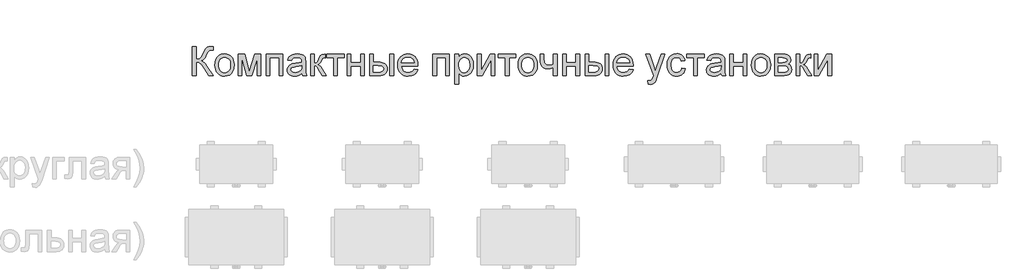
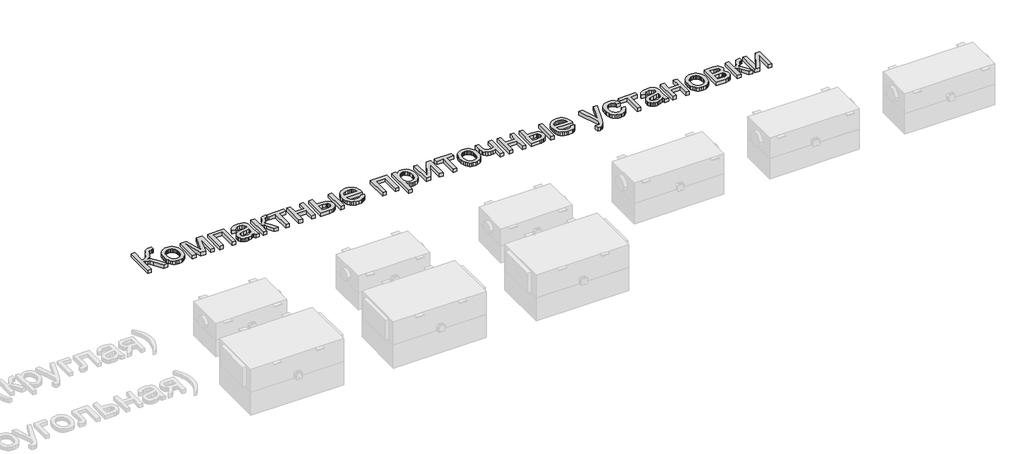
# One storey, part 28 of 28: 1 proxy.
"""IFC4 building model written with IfcOpenShell, lengths in millimetres."""

from ifc_helpers import new_model, si_unit, origin, origin_with_axes, place, context, project, spatial, polyline, outline, extrude, element, save

model = new_model("IFC4")

# Units and contexts
model_context = context("Model", 3, world=origin())
ifc_project = project(units=[si_unit("LENGTHUNIT", "METRE", prefix="MILLI")], contexts=[model_context])

# Site, building, storey
site = spatial("IfcSite", under=ifc_project)
building = spatial("IfcBuilding", under=site)
storey = spatial("IfcBuildingStorey", under=building, Name="Уровень 1", Elevation=0.0)

# Proxy
placement = place(None, origin())
element("IfcBuildingElementProxy", 1, Name="400 мм Arial", ObjectType="400 мм Arial", at=placement, inside=storey, context=model_context, shape_type="SweptSolid", body=[
    extrude(outline(polyline([(-21278.8987872, 24087.9376511), (-21228.6706322, 24087.9376511), (-21228.6706322, 23912.1391083), (-21194.6660731, 23915.462309), (-21172.5073142, 23925.4319111), (-21154.5914611, 23948.8905196), (-21133.315619, 23992.6807398), (-21105.601842, 24048.8440577), (-21092.2354629, 24064.0621096), (-21074.2092451, 24076.6559365), (-21052.8107757, 24085.1172224), (-21029.3276417, 24087.9376511), (-20996.3654149, 24087.3490399), (-20996.3654149, 24037.1208848), (-21007.4509257, 24037.4151904), (-21018.5364365, 24037.709496), (-21041.5413239, 24034.6928636), (-21057.7771827, 24025.6429665), (-21071.7566985, 24006.6357301), (-21087.6001497, 23973.9432835), (-21107.0365818, 23933.2310093), (-21123.1620759, 23910.9618859), (-21139.0668409, 23899.238713), (-21157.8410854, 23890.1642904), (-21138.3862592, 23881.8869456), (-21119.0663231, 23867.4537086), (-21099.881277, 23846.8645796), (-21080.831121, 23820.1195586), (-20996.3654149, 23686.1124105), (-21054.637923, 23686.1124105), (-21126.056081, 23799.3219631), (-21153.6349679, 23835.631916), (-21176.333287, 23858.428337), (-21199.5466409, 23870.4580782), (-21228.6706322, 23874.467992), (-21228.6706322, 23686.1124105), (-21278.8987872, 23686.1124105), (-21278.8987872, 24087.9376511)])), origin_with_axes(), (0.0, 0.0, 1.0), 50.0),
    extrude(outline(polyline([(-20971.2513374, 23833.657616), (-20968.535142, 23871.8744239), (-20960.3865558, 23904.8059939), (-20946.8055788, 23932.4523258), (-20927.792211, 23954.8134197), (-20908.6500846, 23969.1056352), (-20887.5213953, 23979.3143606), (-20864.4061433, 23985.4395958), (-20839.3043285, 23987.4813409), (-20811.5936172, 23984.9950718), (-20786.5377876, 23977.5362643), (-20764.1368398, 23965.1049185), (-20744.3907737, 23947.7010345), (-20728.2744766, 23925.9132233), (-20716.7628359, 23900.3300962), (-20709.8558514, 23870.9516532), (-20707.5535233, 23837.7778943), (-20711.6247507, 23787.0347045), (-20723.8384329, 23748.407095), (-20743.8389507, 23719.4793074), (-20771.2706848, 23697.8355834), (-20803.8527669, 23684.3343141), (-20839.3043285, 23679.8338911), (-20867.4197099, 23682.3109632), (-20892.7085314, 23689.7421795), (-20915.1707929, 23702.12754), (-20934.8064944, 23719.4670447), (-20950.7511132, 23741.466388), (-20962.1401267, 23767.8312643), (-20968.9735347, 23798.5616736), (-20971.2513374, 23833.657616)]), holes=[polyline([(-20921.0231823, 23833.7557179), (-20919.5700484, 23809.3927327), (-20915.2106468, 23788.297766), (-20907.9449774, 23770.4708176), (-20897.7730402, 23755.9118877), (-20885.3999425, 23744.602582), (-20871.5307912, 23736.5245065), (-20856.1655866, 23731.6776612), (-20839.3043285, 23730.0620461), (-20822.5289095, 23731.6868583), (-20807.2250185, 23736.5612947), (-20793.3926555, 23744.6853555), (-20781.0318204, 23756.0590405), (-20770.8598833, 23770.7620575), (-20763.5942139, 23788.8741144), (-20759.2348122, 23810.3952112), (-20757.7816783, 23835.3253477), (-20759.2440093, 23858.9157806), (-20763.6310021, 23879.4589244), (-20770.9426567, 23896.9547789), (-20781.1789732, 23911.4033443), (-20793.5857935, 23922.71265), (-20807.4089595, 23930.7907254), (-20822.6484711, 23935.6375707), (-20839.3043285, 23937.2531858), (-20856.1655866, 23935.6437021), (-20871.5307912, 23930.8152509), (-20885.3999425, 23922.7678323), (-20897.7730402, 23911.5014462), (-20907.9449774, 23896.9854358), (-20915.2106468, 23879.1891443), (-20919.5700484, 23858.1125716), (-20921.0231823, 23833.7557179)])]), origin_with_axes(), (0.0, 0.0, 1.0), 50.0),
    extrude(outline(polyline([(-20651.0468488, 23981.2028215), (-20564.6191054, 23981.2028215), (-20498.0079388, 23744.9735297), (-20426.1973733, 23981.2028215), (-20343.399399, 23981.2028215), (-20343.399399, 23686.1124105), (-20393.627554, 23686.1124105), (-20393.627554, 23923.7151284), (-20465.830527, 23686.1124105), (-20531.7549805, 23686.1124105), (-20600.8186937, 23935.0949448), (-20600.8186937, 23686.1124105), (-20651.0468488, 23686.1124105), (-20651.0468488, 23981.2028215)])), origin_with_axes(), (0.0, 0.0, 1.0), 50.0),
    extrude(outline(polyline([(-20268.0571664, 23981.2028215), (-20042.0304685, 23981.2028215), (-20042.0304685, 23686.1124105), (-20092.2586236, 23686.1124105), (-20092.2586236, 23930.9746664), (-20217.8290113, 23930.9746664), (-20217.8290113, 23686.1124105), (-20268.0571664, 23686.1124105), (-20268.0571664, 23981.2028215)])), origin_with_axes(), (0.0, 0.0, 1.0), 50.0),
    extrude(outline(polyline([(-19778.3326544, 23723.7835268), (-19802.3308232, 23703.2066605), (-19827.0402305, 23689.7421795), (-19853.0249621, 23682.3109632), (-19880.8491037, 23679.8338911), (-19903.2132633, 23681.3238132), (-19922.8244393, 23685.7935794), (-19939.6826318, 23693.2431898), (-19953.7878406, 23703.6726444), (-19964.925468, 23716.4197555), (-19972.8809162, 23730.8223356), (-19977.654185, 23746.8803847), (-19979.2452747, 23764.5939028), (-19976.841779, 23785.4160237), (-19969.6312919, 23804.3251582), (-19958.5089929, 23820.511966), (-19944.3700615, 23833.1671067), (-19927.7540581, 23842.7320385), (-19909.2005428, 23849.64822), (-19865.7414164, 23857.2020637), (-19814.3850899, 23865.1483148), (-19778.62696, 23874.467992), (-19778.3326544, 23885.6516046), (-19781.7907451, 23908.0678809), (-19792.1650174, 23922.7341098), (-19815.3661086, 23933.6234168), (-19847.6906732, 23937.2531858), (-19877.6117421, 23934.8374274), (-19898.5074395, 23927.5901521), (-19912.7567354, 23914.1869847), (-19922.7386002, 23893.3035501), (-19972.9667553, 23899.5820695), (-19964.247952, 23927.0505918), (-19951.2371921, 23948.6330022), (-19932.720465, 23965.1386411), (-19907.4837601, 23977.3768488), (-19876.6184607, 23984.9552179), (-19841.2159501, 23987.4813409), (-19807.2604419, 23985.2495235), (-19780.3437426, 23978.5540712), (-19760.0489192, 23968.4863672), (-19745.9590388, 23956.1377949), (-19736.6148361, 23940.8706921), (-19730.5570459, 23922.0473967), (-19728.1044993, 23878.097761), (-19728.1044993, 23815.6068728), (-19725.5538508, 23728.3452635), (-19715.5474605, 23686.1124105), (-19765.7756156, 23686.1124105), (-19773.8199686, 23703.5745425), (-19778.3326544, 23723.7835268)]), holes=[polyline([(-19778.3326544, 23824.2398369), (-19812.0796961, 23815.8766529), (-19859.3647952, 23808.837844), (-19902.5786669, 23800.6953892), (-19913.8235932, 23795.1281084), (-19922.149989, 23787.4516374), (-19927.300337, 23778.2545875), (-19929.0171196, 23768.1255699), (-19925.276986, 23753.1895609), (-19914.0565851, 23740.9513532), (-19895.6011717, 23732.7843729), (-19870.1560004, 23730.0620461), (-19843.1779874, 23733.0664158), (-19819.3392341, 23742.0795247), (-19800.0131666, 23755.3600647), (-19786.5732111, 23771.1667277), (-19780.6135227, 23787.4516374), (-19778.62696, 23810.0150664), (-19778.3326544, 23824.2398369)])]), origin_with_axes(), (0.0, 0.0, 1.0), 50.0),
    extrude(outline(polyline([(-19659.0407861, 23981.2028215), (-19608.812631, 23981.2028215), (-19608.812631, 23855.6324338), (-19588.3829175, 23857.8887767), (-19575.1636912, 23864.6578054), (-19563.4650437, 23882.3161412), (-19547.597067, 23917.2404053), (-19524.6902814, 23962.612518), (-19515.2479769, 23971.7727797), (-19504.4812972, 23977.3768488), (-19467.7421486, 23981.2028215), (-19458.1281658, 23981.2028215), (-19458.1281658, 23930.6803608), (-19471.6662232, 23930.9746664), (-19487.3625217, 23929.6502913), (-19496.1916895, 23925.6771657), (-19513.4576178, 23892.6168371), (-19524.064882, 23870.5807056), (-19533.715653, 23856.8587071), (-19545.4020378, 23847.6984455), (-19562.1161431, 23839.3475242), (-19546.1991154, 23832.2780585), (-19530.4292406, 23819.8007275), (-19514.8065185, 23801.9155312), (-19499.3309492, 23778.6224695), (-19445.571127, 23686.1124105), (-19502.6664127, 23686.1124105), (-19555.3471144, 23776.6604322), (-19569.5718848, 23800.7567029), (-19581.834618, 23814.9692106), (-19594.2199785, 23821.9221803), (-19608.812631, 23824.2398369), (-19608.812631, 23686.1124105), (-19659.0407861, 23686.1124105), (-19659.0407861, 23981.2028215)])), origin_with_axes(), (0.0, 0.0, 1.0), 50.0),
    extrude(outline(polyline([(-19439.2926076, 23981.2028215), (-19200.708871, 23981.2028215), (-19200.708871, 23930.9746664), (-19294.8866618, 23930.9746664), (-19294.8866618, 23686.1124105), (-19345.1148169, 23686.1124105), (-19345.1148169, 23930.9746664), (-19439.2926076, 23930.9746664), (-19439.2926076, 23981.2028215)])), origin_with_axes(), (0.0, 0.0, 1.0), 50.0),
    extrude(outline(polyline([(-19156.7592353, 23981.2028215), (-19106.5310802, 23981.2028215), (-19106.5310802, 23868.1894726), (-18974.6821732, 23868.1894726), (-18974.6821732, 23981.2028215), (-18924.4540181, 23981.2028215), (-18924.4540181, 23686.1124105), (-18974.6821732, 23686.1124105), (-18974.6821732, 23817.9613175), (-19106.5310802, 23817.9613175), (-19106.5310802, 23686.1124105), (-19156.7592353, 23686.1124105), (-19156.7592353, 23981.2028215)])), origin_with_axes(), (0.0, 0.0, 1.0), 50.0),
    extrude(outline(polyline([(-18849.1117855, 23981.2028215), (-18798.8836304, 23981.2028215), (-18798.8836304, 23874.467992), (-18736.7851496, 23874.467992), (-18708.2099157, 23872.8952965), (-18683.1111665, 23868.1772099), (-18661.4889023, 23860.3137322), (-18643.3431229, 23849.3048635), (-18628.986528, 23835.5307485), (-18618.7318174, 23819.3715318), (-18612.578991, 23800.8272136), (-18610.5280489, 23779.8977938), (-18612.2478972, 23761.2247168), (-18617.4074422, 23743.9557228), (-18626.0066838, 23728.0908118), (-18638.0456221, 23713.6299837), (-18653.8614822, 23701.5910454), (-18673.7914893, 23692.9918038), (-18697.8356434, 23687.8322588), (-18725.9939444, 23686.1124105), (-18849.1117855, 23686.1124105), (-18849.1117855, 23981.2028215)]), holes=[polyline([(-18798.8836304, 23736.3405655), (-18747.2820492, 23736.3405655), (-18707.2810136, 23738.9770532), (-18680.6708826, 23746.8865161), (-18665.7348736, 23760.3877853), (-18660.756204, 23779.7996919), (-18664.4472866, 23796.2072289), (-18675.5205347, 23810.7017795), (-18685.1314518, 23816.6246796), (-18699.1998725, 23820.8553226), (-18740.7092242, 23824.2398369), (-18798.8836304, 23824.2398369), (-18798.8836304, 23736.3405655)])]), origin_with_axes(), (0.0, 0.0, 1.0), 50.0),
    extrude(outline(polyline([(-18572.8569326, 23981.2028215), (-18522.6287775, 23981.2028215), (-18522.6287775, 23686.1124105), (-18572.8569326, 23686.1124105), (-18572.8569326, 23981.2028215)])), origin_with_axes(), (0.0, 0.0, 1.0), 50.0),
    extrude(outline(polyline([(-18240.6840164, 23774.0116818), (-18191.43688, 23767.7331625), (-18198.9876579, 23748.0085561), (-18209.1810549, 23730.6261319), (-18222.0170708, 23715.5858896), (-18237.4957058, 23702.8878294), (-18255.4575442, 23692.8017314), (-18275.7431705, 23685.5973757), (-18323.285787, 23679.8338911), (-18354.4515234, 23682.3201602), (-18382.2204827, 23689.7789677), (-18406.5926649, 23702.2103134), (-18427.5680699, 23719.6141975), (-18444.4354594, 23741.5062419), (-18456.4835948, 23767.4020687), (-18463.712476, 23797.3016778), (-18466.122103, 23831.2050694), (-18463.6879505, 23866.2580921), (-18456.3854929, 23897.1540484), (-18444.2147302, 23923.892938), (-18427.1756625, 23946.4747612), (-18406.2554397, 23964.4151398), (-18382.4412119, 23977.229696), (-18355.732979, 23984.9184297), (-18326.1307411, 23987.4813409), (-18297.4819308, 23984.924561), (-18271.5738413, 23977.2542214), (-18248.4064726, 23964.4703221), (-18227.9798248, 23946.572863), (-18211.3055734, 23924.0400908), (-18199.3953938, 23897.3502521), (-18192.249286, 23866.5033468), (-18189.8672501, 23831.4993749), (-18190.1615557, 23817.9613175), (-18415.893948, 23817.9613175), (-18412.9846145, 23797.9178802), (-18407.1996701, 23780.3637776), (-18398.5391148, 23765.2990099), (-18387.0029486, 23752.723577), (-18373.2288336, 23742.8091573), (-18357.8544319, 23735.7274289), (-18322.3047684, 23730.0620461), (-18295.5720101, 23732.686271), (-18273.057632, 23740.5589457), (-18254.7616341, 23754.1705796), (-18240.6840164, 23774.0116818)]), holes=[polyline([(-18415.893948, 23868.1894726), (-18240.0954052, 23868.1894726), (-18246.8889594, 23894.7260272), (-18260.2062876, 23913.7087381), (-18273.9037606, 23924.009434), (-18289.4896944, 23931.3670739), (-18306.9640892, 23935.7816578), (-18326.3269449, 23937.2531858), (-18360.1843512, 23932.556559), (-18388.180171, 23918.4666786), (-18407.6411285, 23896.5041235), (-18415.893948, 23868.1894726)])]), origin_with_axes(), (0.0, 0.0, 1.0), 50.0),
    extrude(outline(polyline([(-17982.6761104, 23981.2028215), (-17756.6494126, 23981.2028215), (-17756.6494126, 23686.1124105), (-17806.8775677, 23686.1124105), (-17806.8775677, 23930.9746664), (-17932.4479554, 23930.9746664), (-17932.4479554, 23686.1124105), (-17982.6761104, 23686.1124105), (-17982.6761104, 23981.2028215)])), origin_with_axes(), (0.0, 0.0, 1.0), 50.0),
    extrude(outline(polyline([(-17681.30718, 23573.0990615), (-17681.30718, 23981.2028215), (-17631.0790249, 23981.2028215), (-17631.0790249, 23931.9556851), (-17614.6960134, 23956.2481595), (-17596.3509646, 23973.599927), (-17574.9647579, 23984.0109874), (-17549.4582729, 23987.4813409), (-17515.490502, 23982.6252986), (-17485.7901623, 23968.0571716), (-17461.6080525, 23944.6598767), (-17444.1949714, 23913.3163307), (-17433.6735463, 23876.307402), (-17430.1664046, 23835.9139589), (-17434.1272674, 23792.9576046), (-17446.0098559, 23754.5384616), (-17465.4340252, 23722.6063044), (-17492.0196307, 23699.1109076), (-17522.983032, 23684.6531452), (-17555.5405886, 23679.8338911), (-17578.6313151, 23683.0589899), (-17599.2449696, 23692.7342864), (-17616.8910426, 23707.3392016), (-17631.0790249, 23725.3531566), (-17631.0790249, 23573.0990615), (-17681.30718, 23573.0990615)]), holes=[polyline([(-17631.0790249, 23831.3031712), (-17625.6466341, 23786.274415), (-17618.8561456, 23768.8368084), (-17609.3494617, 23754.7837162), (-17585.302242, 23736.2424637), (-17571.5403897, 23731.6071505), (-17556.6197091, 23730.0620461), (-17541.4844307, 23731.6623328), (-17527.4711923, 23736.4631929), (-17514.5799941, 23744.4646263), (-17502.8108359, 23755.666633), (-17493.0037151, 23770.2286287), (-17485.9986288, 23788.3100287), (-17481.795577, 23809.9108332), (-17480.3945597, 23835.0310421), (-17485.8637387, 23879.8145436), (-17492.7002124, 23897.3870403), (-17502.2712757, 23911.7467008), (-17526.2817072, 23930.8765646), (-17539.8872097, 23935.6590305), (-17554.5595699, 23937.2531858), (-17569.1859449, 23935.557863), (-17582.9477972, 23930.4718944), (-17607.8779338, 23910.1280201), (-17618.0284111, 23895.0295298), (-17625.2787521, 23876.859225), (-17629.6289567, 23855.6171054), (-17631.0790249, 23831.3031712)])]), origin_with_axes(), (0.0, 0.0, 1.0), 50.0),
    extrude(outline(polyline([(-17373.6597302, 23981.2028215), (-17323.4315751, 23981.2028215), (-17323.4315751, 23756.1571423), (-17200.0194284, 23981.2028215), (-17135.0759936, 23981.2028215), (-17135.0759936, 23686.1124105), (-17185.3041486, 23686.1124105), (-17185.3041486, 23909.7846635), (-17307.9314804, 23686.1124105), (-17373.6597302, 23686.1124105), (-17373.6597302, 23981.2028215)])), origin_with_axes(), (0.0, 0.0, 1.0), 50.0),
    extrude(outline(polyline([(-17084.8478385, 23981.2028215), (-16846.2641019, 23981.2028215), (-16846.2641019, 23930.9746664), (-16940.4418926, 23930.9746664), (-16940.4418926, 23686.1124105), (-16990.6700477, 23686.1124105), (-16990.6700477, 23930.9746664), (-17084.8478385, 23930.9746664), (-17084.8478385, 23981.2028215)])), origin_with_axes(), (0.0, 0.0, 1.0), 50.0),
    extrude(outline(polyline([(-16814.871505, 23833.657616), (-16812.1553096, 23871.8744239), (-16804.0067234, 23904.8059939), (-16790.4257464, 23932.4523258), (-16771.4123786, 23954.8134197), (-16752.2702521, 23969.1056352), (-16731.1415629, 23979.3143606), (-16708.0263108, 23985.4395958), (-16682.924496, 23987.4813409), (-16655.2137847, 23984.9950718), (-16630.1579552, 23977.5362643), (-16607.7570074, 23965.1049185), (-16588.0109413, 23947.7010345), (-16571.8946442, 23925.9132233), (-16560.3830034, 23900.3300962), (-16553.476019, 23870.9516532), (-16551.1736908, 23837.7778943), (-16555.2449182, 23787.0347045), (-16567.4586005, 23748.407095), (-16587.4591183, 23719.4793074), (-16614.8908524, 23697.8355834), (-16647.4729344, 23684.3343141), (-16682.924496, 23679.8338911), (-16711.0398775, 23682.3109632), (-16736.328699, 23689.7421795), (-16758.7909605, 23702.12754), (-16778.426662, 23719.4670447), (-16794.3712808, 23741.466388), (-16805.7602942, 23767.8312643), (-16812.5937023, 23798.5616736), (-16814.871505, 23833.657616)]), holes=[polyline([(-16764.6433499, 23833.7557179), (-16763.190216, 23809.3927327), (-16758.8308144, 23788.297766), (-16751.565145, 23770.4708176), (-16741.3932078, 23755.9118877), (-16729.02011, 23744.602582), (-16715.1509588, 23736.5245065), (-16699.7857541, 23731.6776612), (-16682.924496, 23730.0620461), (-16666.149077, 23731.6868583), (-16650.845186, 23736.5612947), (-16637.012823, 23744.6853555), (-16624.651988, 23756.0590405), (-16614.4800508, 23770.7620575), (-16607.2143814, 23788.8741144), (-16602.8549798, 23810.3952112), (-16601.4018459, 23835.3253477), (-16602.8641768, 23858.9157806), (-16607.2511696, 23879.4589244), (-16614.5628243, 23896.9547789), (-16624.7991408, 23911.4033443), (-16637.2059611, 23922.71265), (-16651.029127, 23930.7907254), (-16666.2686387, 23935.6375707), (-16682.924496, 23937.2531858), (-16699.7857541, 23935.6437021), (-16715.1509588, 23930.8152509), (-16729.02011, 23922.7678323), (-16741.3932078, 23911.5014462), (-16751.565145, 23896.9854358), (-16758.8308144, 23879.1891443), (-16763.190216, 23858.1125716), (-16764.6433499, 23833.7557179)])]), origin_with_axes(), (0.0, 0.0, 1.0), 50.0),
    extrude(outline(polyline([(-16513.5025745, 23981.2028215), (-16463.2744194, 23981.2028215), (-16463.2744194, 23924.5980452), (-16459.203192, 23871.524936), (-16452.2747478, 23856.0984177), (-16439.6318699, 23842.7810895), (-16422.1697378, 23833.5840396), (-16400.7835312, 23830.5183563), (-16370.0531219, 23834.3198036), (-16331.4255124, 23845.7241454), (-16331.4255124, 23981.2028215), (-16281.1973573, 23981.2028215), (-16281.1973573, 23686.1124105), (-16331.4255124, 23686.1124105), (-16331.4255124, 23797.5561295), (-16374.2960275, 23784.6066833), (-16414.2234867, 23780.2902012), (-16444.5982768, 23784.7906243), (-16471.1716196, 23798.2918935), (-16491.8833759, 23818.3169368), (-16504.6734066, 23842.388682), (-16511.2952825, 23869.7836279), (-16513.5025745, 23899.7782733), (-16513.5025745, 23981.2028215)])), origin_with_axes(), (0.0, 0.0, 1.0), 50.0),
    extrude(outline(polyline([(-16205.8551247, 23981.2028215), (-16155.6269696, 23981.2028215), (-16155.6269696, 23868.1894726), (-16023.7780625, 23868.1894726), (-16023.7780625, 23981.2028215), (-15973.5499075, 23981.2028215), (-15973.5499075, 23686.1124105), (-16023.7780625, 23686.1124105), (-16023.7780625, 23817.9613175), (-16155.6269696, 23817.9613175), (-16155.6269696, 23686.1124105), (-16205.8551247, 23686.1124105), (-16205.8551247, 23981.2028215)])), origin_with_axes(), (0.0, 0.0, 1.0), 50.0),
    extrude(outline(polyline([(-15621.9528219, 23981.2028215), (-15571.7246669, 23981.2028215), (-15571.7246669, 23686.1124105), (-15621.9528219, 23686.1124105), (-15621.9528219, 23981.2028215)])), origin_with_axes(), (0.0, 0.0, 1.0), 50.0),
    extrude(outline(polyline([(-15898.2076748, 23981.2028215), (-15847.9795198, 23981.2028215), (-15847.9795198, 23874.467992), (-15785.881039, 23874.467992), (-15757.305805, 23872.8952965), (-15732.2070559, 23868.1772099), (-15710.5847916, 23860.3137322), (-15692.4390122, 23849.3048635), (-15678.0824173, 23835.5307485), (-15667.8277067, 23819.3715318), (-15661.6748804, 23800.8272136), (-15659.6239382, 23779.8977938), (-15661.3437866, 23761.2247168), (-15666.5033315, 23743.9557228), (-15675.1025732, 23728.0908118), (-15687.1415115, 23713.6299837), (-15702.9573716, 23701.5910454), (-15722.8873787, 23692.9918038), (-15746.9315327, 23687.8322588), (-15775.0898338, 23686.1124105), (-15898.2076748, 23686.1124105), (-15898.2076748, 23981.2028215)]), holes=[polyline([(-15847.9795198, 23736.3405655), (-15796.3779386, 23736.3405655), (-15756.376903, 23738.9770532), (-15729.766772, 23746.8865161), (-15714.830763, 23760.3877853), (-15709.8520933, 23779.7996919), (-15713.543176, 23796.2072289), (-15724.6164241, 23810.7017795), (-15734.2273412, 23816.6246796), (-15748.2957618, 23820.8553226), (-15789.8051136, 23824.2398369), (-15847.9795198, 23824.2398369), (-15847.9795198, 23736.3405655)])]), origin_with_axes(), (0.0, 0.0, 1.0), 50.0),
    extrude(outline(polyline([(-15289.7799058, 23774.0116818), (-15240.5327693, 23767.7331625), (-15248.0835473, 23748.0085561), (-15258.2769442, 23730.6261319), (-15271.1129602, 23715.5858896), (-15286.5915951, 23702.8878294), (-15304.5534335, 23692.8017314), (-15324.8390599, 23685.5973757), (-15372.3816764, 23679.8338911), (-15403.5474128, 23682.3201602), (-15431.316372, 23689.7789677), (-15455.6885542, 23702.2103134), (-15476.6639593, 23719.6141975), (-15493.5313488, 23741.5062419), (-15505.5794841, 23767.4020687), (-15512.8083653, 23797.3016778), (-15515.2179924, 23831.2050694), (-15512.7838399, 23866.2580921), (-15505.4813823, 23897.1540484), (-15493.3106196, 23923.892938), (-15476.2715518, 23946.4747612), (-15455.351329, 23964.4151398), (-15431.5371012, 23977.229696), (-15404.8288684, 23984.9184297), (-15375.2266305, 23987.4813409), (-15346.5778201, 23984.924561), (-15320.6697306, 23977.2542214), (-15297.502362, 23964.4703221), (-15277.0757142, 23946.572863), (-15260.4014628, 23924.0400908), (-15248.4912832, 23897.3502521), (-15241.3451754, 23866.5033468), (-15238.9631395, 23831.4993749), (-15239.2574451, 23817.9613175), (-15464.9898373, 23817.9613175), (-15462.0805039, 23797.9178802), (-15456.2955595, 23780.3637776), (-15447.6350042, 23765.2990099), (-15436.098838, 23752.723577), (-15422.3247229, 23742.8091573), (-15406.9503212, 23735.7274289), (-15371.4006577, 23730.0620461), (-15344.6678994, 23732.686271), (-15322.1535213, 23740.5589457), (-15303.8575234, 23754.1705796), (-15289.7799058, 23774.0116818)]), holes=[polyline([(-15464.9898373, 23868.1894726), (-15289.1912946, 23868.1894726), (-15295.9848487, 23894.7260272), (-15309.302177, 23913.7087381), (-15322.9996499, 23924.009434), (-15338.5855838, 23931.3670739), (-15356.0599786, 23935.7816578), (-15375.4228342, 23937.2531858), (-15409.2802405, 23932.556559), (-15437.2760604, 23918.4666786), (-15456.7370179, 23896.5041235), (-15464.9898373, 23868.1894726)])]), origin_with_axes(), (0.0, 0.0, 1.0), 50.0),
    extrude(outline(polyline([(-15031.7719998, 23573.0990615), (-15038.0505192, 23621.4632812), (-15012.5440342, 23617.0486972), (-14999.1286041, 23618.4343861), (-14988.7052809, 23622.5914526), (-14974.088103, 23638.0424964), (-14960.3538418, 23675.0268997), (-14956.4297672, 23687.191531), (-15063.1645967, 23981.2028215), (-15010.1895894, 23981.2028215), (-14953.5848131, 23817.3727063), (-14933.8663382, 23751.8406603), (-14914.1478632, 23809.7207608), (-14855.973457, 23981.2028215), (-14803.3908572, 23981.2028215), (-14906.1035102, 23679.0490761), (-14932.7872176, 23613.5170301), (-14946.4479024, 23592.5968073), (-14961.9234717, 23578.1022567), (-14979.9006385, 23569.6409708), (-15001.0661159, 23566.8205422), (-15031.7719998, 23573.0990615)])), origin_with_axes(), (0.0, 0.0, 1.0), 50.0),
    extrude(outline(polyline([(-14573.4400847, 23792.84724), (-14523.2119297, 23786.5687206), (-14528.6749773, 23762.8679231), (-14537.215971, 23741.8955837), (-14548.8349106, 23723.6517024), (-14563.5317963, 23708.1362792), (-14580.68736, 23695.7539844), (-14599.6823337, 23686.9094881), (-14620.5167174, 23681.6027903), (-14643.190511, 23679.8338911), (-14671.3610748, 23682.3017661), (-14696.6192395, 23689.7053913), (-14718.965005, 23702.0447665), (-14738.3983714, 23719.3198919), (-14754.1283924, 23741.2058049), (-14765.3641216, 23767.3775432), (-14772.1055592, 23797.8351067), (-14774.352705, 23832.5784955), (-14770.5144696, 23877.2761579), (-14758.9997631, 23916.014132), (-14739.6246447, 23947.2963643), (-14712.2051733, 23969.6268014), (-14679.4023621, 23983.017706), (-14643.8772241, 23987.4813409), (-14621.5927722, 23985.9484993), (-14601.4359046, 23981.3499743), (-14583.4066211, 23973.6857661), (-14567.5049219, 23962.9558746), (-14554.000587, 23949.4055544), (-14543.1633965, 23933.2800603), (-14534.9933506, 23914.5793922), (-14529.4904491, 23893.3035501), (-14579.7186041, 23887.0250308), (-14588.8298149, 23908.9385349), (-14603.0177972, 23924.6470961), (-14621.497736, 23934.1016634), (-14643.4848166, 23937.2531858), (-14660.5514755, 23935.7019501), (-14675.9442713, 23931.0482428), (-14689.6632041, 23923.2920641), (-14701.7082737, 23912.4334139), (-14711.5153946, 23898.2209061), (-14718.5204809, 23880.4031548), (-14722.7235327, 23858.98016), (-14724.12455, 23833.9519216), (-14718.6431082, 23786.8752889), (-14711.7913061, 23768.937976), (-14702.1987831, 23754.7346653), (-14690.3928367, 23743.9403944), (-14676.9007645, 23736.2302009), (-14661.7225665, 23731.6040848), (-14644.8582427, 23730.0620461), (-14618.8489857, 23733.9125444), (-14597.5240927, 23745.464039), (-14582.0117352, 23765.0108357), (-14573.4400847, 23792.84724)])), origin_with_axes(), (0.0, 0.0, 1.0), 50.0),
    extrude(outline(polyline([(-14504.3763715, 23981.2028215), (-14265.7926349, 23981.2028215), (-14265.7926349, 23930.9746664), (-14359.9704257, 23930.9746664), (-14359.9704257, 23686.1124105), (-14410.1985808, 23686.1124105), (-14410.1985808, 23930.9746664), (-14504.3763715, 23930.9746664), (-14504.3763715, 23981.2028215)])), origin_with_axes(), (0.0, 0.0, 1.0), 50.0),
    extrude(outline(polyline([(-14033.4874177, 23723.7835268), (-14057.4855865, 23703.2066605), (-14082.1949939, 23689.7421795), (-14108.1797254, 23682.3109632), (-14136.003867, 23679.8338911), (-14158.3680266, 23681.3238132), (-14177.9792027, 23685.7935794), (-14194.8373951, 23693.2431898), (-14208.9426039, 23703.6726444), (-14220.0802313, 23716.4197555), (-14228.0356795, 23730.8223356), (-14232.8089484, 23746.8803847), (-14234.400038, 23764.5939028), (-14231.9965423, 23785.4160237), (-14224.7860552, 23804.3251582), (-14213.6637562, 23820.511966), (-14199.5248248, 23833.1671067), (-14182.9088214, 23842.7320385), (-14164.3553061, 23849.64822), (-14120.8961797, 23857.2020637), (-14069.5398532, 23865.1483148), (-14033.7817233, 23874.467992), (-14033.4874177, 23885.6516046), (-14036.9455084, 23908.0678809), (-14047.3197807, 23922.7341098), (-14070.5208719, 23933.6234168), (-14102.8454365, 23937.2531858), (-14132.7665055, 23934.8374274), (-14153.6622028, 23927.5901521), (-14167.9114987, 23914.1869847), (-14177.8933635, 23893.3035501), (-14228.1215186, 23899.5820695), (-14219.4027153, 23927.0505918), (-14206.3919554, 23948.6330022), (-14187.8752283, 23965.1386411), (-14162.6385235, 23977.3768488), (-14131.7732241, 23984.9552179), (-14096.3707134, 23987.4813409), (-14062.4152052, 23985.2495235), (-14035.4985059, 23978.5540712), (-14015.2036825, 23968.4863672), (-14001.1138021, 23956.1377949), (-13991.7695994, 23940.8706921), (-13985.7118092, 23922.0473967), (-13983.2592626, 23878.097761), (-13983.2592626, 23815.6068728), (-13980.7086141, 23728.3452635), (-13970.7022238, 23686.1124105), (-14020.9303789, 23686.1124105), (-14028.9747319, 23703.5745425), (-14033.4874177, 23723.7835268)]), holes=[polyline([(-14033.4874177, 23824.2398369), (-14067.2344594, 23815.8766529), (-14114.5195585, 23808.837844), (-14157.7334302, 23800.6953892), (-14168.9783565, 23795.1281084), (-14177.3047523, 23787.4516374), (-14182.4551003, 23778.2545875), (-14184.1718829, 23768.1255699), (-14180.4317493, 23753.1895609), (-14169.2113484, 23740.9513532), (-14150.755935, 23732.7843729), (-14125.3107637, 23730.0620461), (-14098.3327507, 23733.0664158), (-14074.4939974, 23742.0795247), (-14055.1679299, 23755.3600647), (-14041.7279744, 23771.1667277), (-14035.7682861, 23787.4516374), (-14033.7817233, 23810.0150664), (-14033.4874177, 23824.2398369)])]), origin_with_axes(), (0.0, 0.0, 1.0), 50.0),
    extrude(outline(polyline([(-13914.1955494, 23981.2028215), (-13863.9673943, 23981.2028215), (-13863.9673943, 23868.1894726), (-13732.1184872, 23868.1894726), (-13732.1184872, 23981.2028215), (-13681.8903322, 23981.2028215), (-13681.8903322, 23686.1124105), (-13732.1184872, 23686.1124105), (-13732.1184872, 23817.9613175), (-13863.9673943, 23817.9613175), (-13863.9673943, 23686.1124105), (-13914.1955494, 23686.1124105), (-13914.1955494, 23981.2028215)])), origin_with_axes(), (0.0, 0.0, 1.0), 50.0),
    extrude(outline(polyline([(-13619.1051383, 23833.657616), (-13616.3889429, 23871.8744239), (-13608.2403567, 23904.8059939), (-13594.6593797, 23932.4523258), (-13575.646012, 23954.8134197), (-13556.5038855, 23969.1056352), (-13535.3751962, 23979.3143606), (-13512.2599442, 23985.4395958), (-13487.1581294, 23987.4813409), (-13459.4474181, 23984.9950718), (-13434.3915885, 23977.5362643), (-13411.9906407, 23965.1049185), (-13392.2445746, 23947.7010345), (-13376.1282776, 23925.9132233), (-13364.6166368, 23900.3300962), (-13357.7096523, 23870.9516532), (-13355.4073242, 23837.7778943), (-13359.4785516, 23787.0347045), (-13371.6922338, 23748.407095), (-13391.6927516, 23719.4793074), (-13419.1244857, 23697.8355834), (-13451.7065678, 23684.3343141), (-13487.1581294, 23679.8338911), (-13515.2735109, 23682.3109632), (-13540.5623324, 23689.7421795), (-13563.0245938, 23702.12754), (-13582.6602953, 23719.4670447), (-13598.6049141, 23741.466388), (-13609.9939276, 23767.8312643), (-13616.8273356, 23798.5616736), (-13619.1051383, 23833.657616)]), holes=[polyline([(-13568.8769832, 23833.7557179), (-13567.4238494, 23809.3927327), (-13563.0644477, 23788.297766), (-13555.7987783, 23770.4708176), (-13545.6268412, 23755.9118877), (-13533.2537434, 23744.602582), (-13519.3845922, 23736.5245065), (-13504.0193875, 23731.6776612), (-13487.1581294, 23730.0620461), (-13470.3827104, 23731.6868583), (-13455.0788194, 23736.5612947), (-13441.2464564, 23744.6853555), (-13428.8856214, 23756.0590405), (-13418.7136842, 23770.7620575), (-13411.4480148, 23788.8741144), (-13407.0886131, 23810.3952112), (-13405.6354793, 23835.3253477), (-13407.0978102, 23858.9157806), (-13411.484803, 23879.4589244), (-13418.7964576, 23896.9547789), (-13429.0327741, 23911.4033443), (-13441.4395944, 23922.71265), (-13455.2627604, 23930.7907254), (-13470.5022721, 23935.6375707), (-13487.1581294, 23937.2531858), (-13504.0193875, 23935.6437021), (-13519.3845922, 23930.8152509), (-13533.2537434, 23922.7678323), (-13545.6268412, 23911.5014462), (-13555.7987783, 23896.9854358), (-13563.0644477, 23879.1891443), (-13567.4238494, 23858.1125716), (-13568.8769832, 23833.7557179)])]), origin_with_axes(), (0.0, 0.0, 1.0), 50.0),
    extrude(outline(polyline([(-13298.9006497, 23981.2028215), (-13188.2417456, 23981.2028215), (-13152.6675566, 23979.5228271), (-13127.5657418, 23974.4828437), (-13109.0980657, 23964.9669628), (-13093.4262927, 23949.8592755), (-13082.7209266, 23930.1775888), (-13079.1524713, 23906.9397094), (-13081.3107123, 23888.2145159), (-13087.7854354, 23872.0644963), (-13098.6011661, 23858.4160743), (-13113.7824297, 23847.1956734), (-13095.1921263, 23836.7600875), (-13080.0353881, 23819.9724058), (-13069.9554214, 23798.1570035), (-13066.5954325, 23772.6382557), (-13069.3852043, 23752.0797836), (-13075.1057693, 23734.3540028), (-13083.7571276, 23719.4609133), (-13095.3392791, 23707.4005152), (-13109.8706179, 23698.0869694), (-13127.3695381, 23691.4344367), (-13171.2701229, 23686.1124105), (-13298.9006497, 23686.1124105), (-13298.9006497, 23981.2028215)]), holes=[polyline([(-13248.6724946, 23868.1894726), (-13199.0329508, 23868.1894726), (-13158.075422, 23870.7401211), (-13138.1607433, 23880.9427151), (-13131.5756556, 23889.3794755), (-13129.3806263, 23899.3858658), (-13133.2311246, 23914.3709257), (-13144.7826192, 23924.009434), (-13165.6537911, 23929.2333583), (-13197.4633209, 23930.9746664), (-13248.6724946, 23930.9746664), (-13248.6724946, 23868.1894726)]), polyline([(-13248.6724946, 23736.3405655), (-13187.0645232, 23736.3405655), (-13153.4891598, 23738.6091712), (-13132.4217842, 23745.4149881), (-13121.1155442, 23757.7880858), (-13116.8235876, 23776.7585341), (-13118.9695659, 23789.3278356), (-13125.4075008, 23800.9406439), (-13135.2912637, 23810.0273292), (-13147.7747261, 23815.0182616), (-13191.9696165, 23817.9613175), (-13248.6724946, 23817.9613175), (-13248.6724946, 23736.3405655)])]), origin_with_axes(), (0.0, 0.0, 1.0), 50.0),
    extrude(outline(polyline([(-13003.8102387, 23981.2028215), (-12953.5820836, 23981.2028215), (-12953.5820836, 23855.6324338), (-12933.1523701, 23857.8887767), (-12919.9331438, 23864.6578054), (-12908.2344963, 23882.3161412), (-12892.3665196, 23917.2404053), (-12869.459734, 23962.612518), (-12860.0174295, 23971.7727797), (-12849.2507497, 23977.3768488), (-12812.5116012, 23981.2028215), (-12802.8976184, 23981.2028215), (-12802.8976184, 23930.6803608), (-12816.4356758, 23930.9746664), (-12832.1319742, 23929.6502913), (-12840.9611421, 23925.6771657), (-12858.2270704, 23892.6168371), (-12868.8343346, 23870.5807056), (-12878.4851056, 23856.8587071), (-12890.1714903, 23847.6984455), (-12906.8855957, 23839.3475242), (-12890.968568, 23832.2780585), (-12875.1986931, 23819.8007275), (-12859.5759711, 23801.9155312), (-12844.1004018, 23778.6224695), (-12790.3405796, 23686.1124105), (-12847.4358652, 23686.1124105), (-12900.1165669, 23776.6604322), (-12914.3413374, 23800.7567029), (-12926.6040706, 23814.9692106), (-12938.9894311, 23821.9221803), (-12953.5820836, 23824.2398369), (-12953.5820836, 23686.1124105), (-13003.8102387, 23686.1124105), (-13003.8102387, 23981.2028215)])), origin_with_axes(), (0.0, 0.0, 1.0), 50.0),
    extrude(outline(polyline([(-12758.9479827, 23981.2028215), (-12708.7198276, 23981.2028215), (-12708.7198276, 23756.1571423), (-12585.3076809, 23981.2028215), (-12520.3642461, 23981.2028215), (-12520.3642461, 23686.1124105), (-12570.5924011, 23686.1124105), (-12570.5924011, 23909.7846635), (-12693.2197329, 23686.1124105), (-12758.9479827, 23686.1124105), (-12758.9479827, 23981.2028215)])), origin_with_axes(), (0.0, 0.0, 1.0), 50.0),
])

save(model, "model.ifc")
